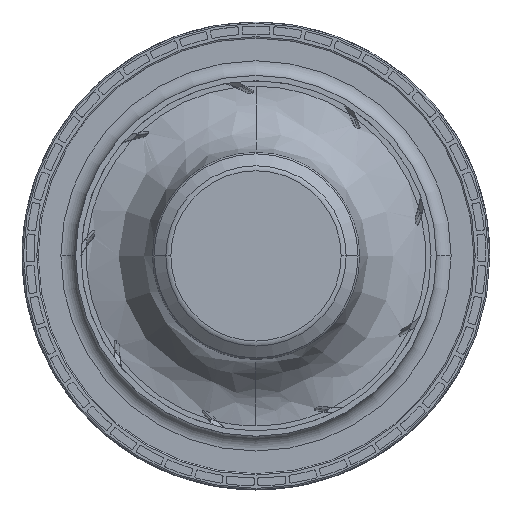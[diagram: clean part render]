
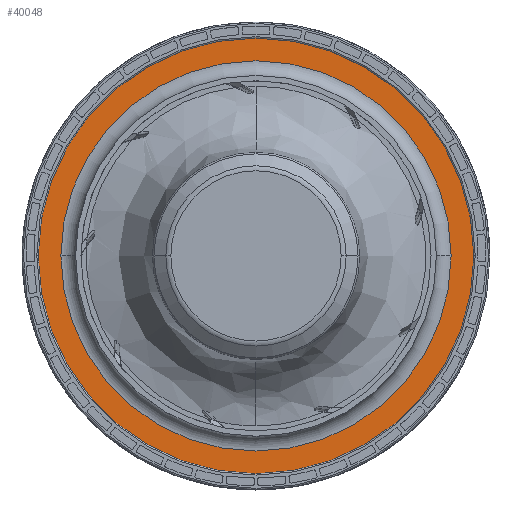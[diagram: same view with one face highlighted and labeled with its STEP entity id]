
A CAD part, top view. The second image highlights one B-rep face of the part: STEP entity #40048.
In plain terms, the highlighted planar face has unit normal (0, 0, 1).
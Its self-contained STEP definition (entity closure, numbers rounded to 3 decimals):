
#2870 = AXIS2_PLACEMENT_3D ( 'NONE', #31557, #41192, #22091 ) ;
#3915 = DIRECTION ( 'NONE',  ( 0., 0., -1. ) ) ;
#4372 = CIRCLE ( 'NONE', #20985, 81.5 ) ;
#4883 = ORIENTED_EDGE ( 'NONE', *, *, #25565, .F. ) ;
#6103 = CARTESIAN_POINT ( 'NONE',  ( -81.5, 0., 56.5 ) ) ;
#6200 = FACE_BOUND ( 'NONE', #36931, .T. ) ;
#7252 = CARTESIAN_POINT ( 'NONE',  ( 81.5, 0., 56.5 ) ) ;
#7305 = AXIS2_PLACEMENT_3D ( 'NONE', #23141, #3915, #26337 ) ;
#9916 = DIRECTION ( 'NONE',  ( 0., 0., 1. ) ) ;
#10210 = EDGE_CURVE ( 'NONE', #30146, #13980, #32646, .T. ) ;
#10607 = CARTESIAN_POINT ( 'NONE',  ( -73., 0., 56.5 ) ) ;
#12532 = DIRECTION ( 'NONE',  ( 0., 0., 1. ) ) ;
#13980 = VERTEX_POINT ( 'NONE', #31573 ) ;
#15007 = CARTESIAN_POINT ( 'NONE',  ( 0., 0., 56.5 ) ) ;
#16617 = CIRCLE ( 'NONE', #7305, 81.5 ) ;
#16715 = FACE_OUTER_BOUND ( 'NONE', #40252, .T. ) ;
#18214 = DIRECTION ( 'NONE',  ( -1., 0., 0. ) ) ;
#18833 = PLANE ( 'NONE',  #2870 ) ;
#20985 = AXIS2_PLACEMENT_3D ( 'NONE', #15007, #37398, #18214 ) ;
#21016 = AXIS2_PLACEMENT_3D ( 'NONE', #29091, #9916, #32293 ) ;
#21171 = ORIENTED_EDGE ( 'NONE', *, *, #40052, .F. ) ;
#22091 = DIRECTION ( 'NONE',  ( -1., 0., 0. ) ) ;
#23141 = CARTESIAN_POINT ( 'NONE',  ( 0., 0., 56.5 ) ) ;
#25565 = EDGE_CURVE ( 'NONE', #31155, #34948, #16617, .T. ) ;
#26337 = DIRECTION ( 'NONE',  ( -1., 0., 0. ) ) ;
#29091 = CARTESIAN_POINT ( 'NONE',  ( 0., 0., 56.5 ) ) ;
#30146 = VERTEX_POINT ( 'NONE', #10607 ) ;
#30978 = ORIENTED_EDGE ( 'NONE', *, *, #35790, .F. ) ;
#31155 = VERTEX_POINT ( 'NONE', #7252 ) ;
#31557 = CARTESIAN_POINT ( 'NONE',  ( 0., 87.5, 56.5 ) ) ;
#31573 = CARTESIAN_POINT ( 'NONE',  ( 73., 0., 56.5 ) ) ;
#31701 = CARTESIAN_POINT ( 'NONE',  ( 0., 0., 56.5 ) ) ;
#32293 = DIRECTION ( 'NONE',  ( 1., 0., 0. ) ) ;
#32646 = CIRCLE ( 'NONE', #21016, 73. ) ;
#34895 = DIRECTION ( 'NONE',  ( 1., 0., 0. ) ) ;
#34948 = VERTEX_POINT ( 'NONE', #6103 ) ;
#35790 = EDGE_CURVE ( 'NONE', #34948, #31155, #4372, .T. ) ;
#36931 = EDGE_LOOP ( 'NONE', ( #21171, #39129 ) ) ;
#37398 = DIRECTION ( 'NONE',  ( 0., 0., -1. ) ) ;
#37991 = AXIS2_PLACEMENT_3D ( 'NONE', #31701, #12532, #34895 ) ;
#39129 = ORIENTED_EDGE ( 'NONE', *, *, #10210, .F. ) ;
#39226 = CIRCLE ( 'NONE', #37991, 73. ) ;
#40048 = ADVANCED_FACE ( 'NONE', ( #6200, #16715 ), #18833, .F. ) ;
#40052 = EDGE_CURVE ( 'NONE', #13980, #30146, #39226, .T. ) ;
#40252 = EDGE_LOOP ( 'NONE', ( #4883, #30978 ) ) ;
#41192 = DIRECTION ( 'NONE',  ( 0., 0., -1. ) ) ;
